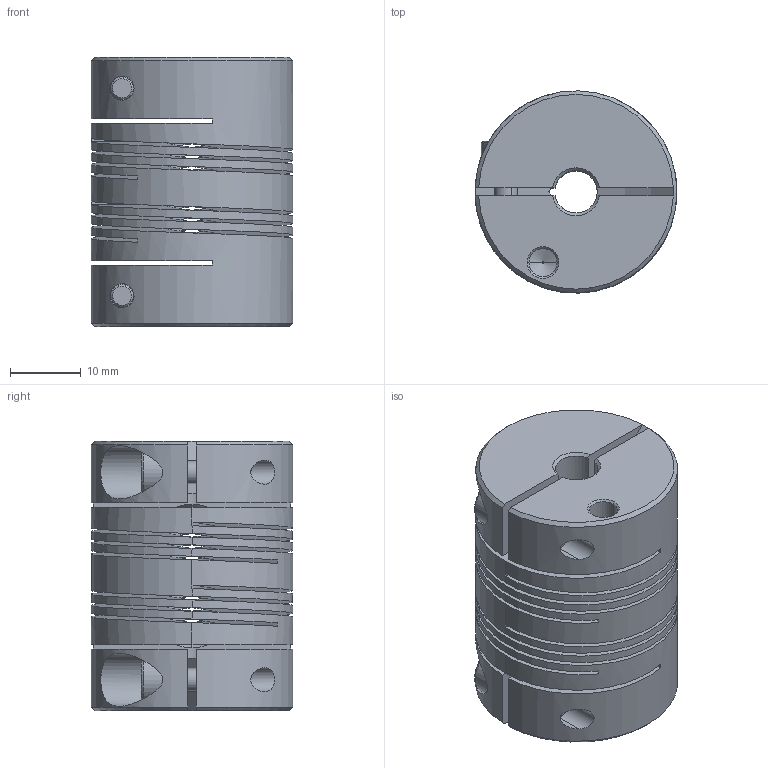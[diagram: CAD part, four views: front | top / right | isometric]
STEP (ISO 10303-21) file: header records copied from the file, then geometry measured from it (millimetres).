
FILE_DESCRIPTION((''),'2;1');
FILE_NAME('PCMR29-6-6-A','2016-09-08T',('SYSTEM'),(''),'PRO/ENGINEER BY PARAMETRIC TECHNOLOGY CORPORATION, 2015110','PRO/ENGINEER BY PARAMETRIC TECHNOLOGY CORPORATION, 2015110','');
FILE_SCHEMA(('AUTOMOTIVE_DESIGN { 1 0 10303 214 1 1 1 1 }'));
Length unit declared in the file: inch
Products named in the file (1): PCMR29-6-6-A
Bounding box: 28.58 x 28.57 x 38.1 mm (x, y, z)
Volume: 19576.7 mm3; surface area: 15830.3 mm2
Topology: 1 solids, 1 shells, 144 faces, 386 edges, 246 vertices
Faces by surface type: cylinder 56, plane 54, cone 26, bspline 8
Entity records: 7943 total; most frequent: CARTESIAN_POINT 3383, ORIENTED_EDGE 772, DIRECTION 660, EDGE_CURVE 386, VERTEX_POINT 246, AXIS2_PLACEMENT_3D 236, VECTOR 188, LINE 188
